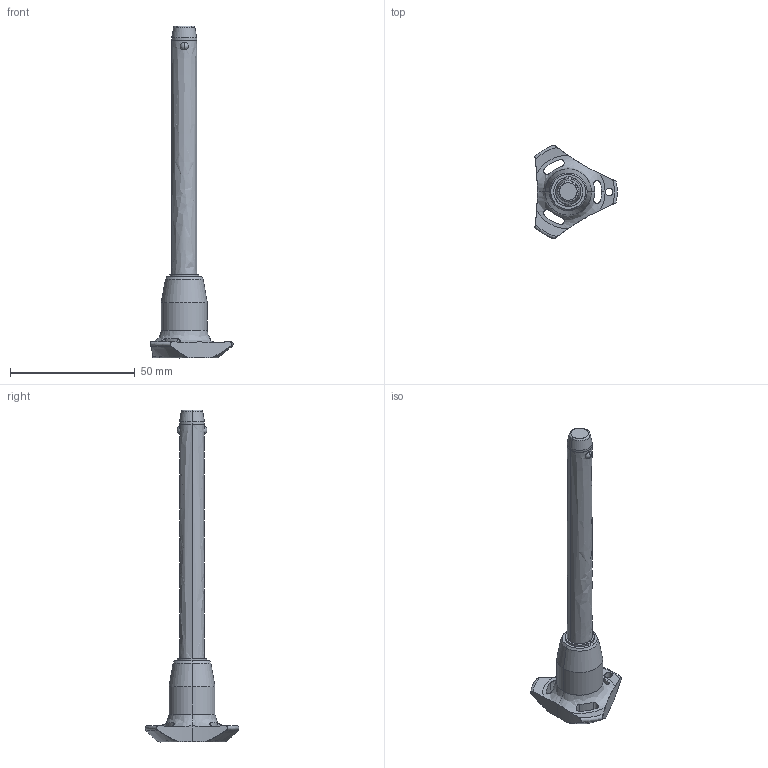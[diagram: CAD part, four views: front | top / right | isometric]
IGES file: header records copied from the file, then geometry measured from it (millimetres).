
Start section: SolidWorks IGES file using analytic representation for surfaces
Global section: file name: C:\Users\ianosborn\Desktop\QR1716_v2\QR1716_v2_20251114_IGES\QR1716.M10-090-T.igs; native system: SolidWorks 2019; preprocessor: SolidWorks 2019; author: IanOsborn; date: 251113.103432; units: millimetre
Bounding box: 33 x 37.51 x 132.9 mm (x, y, z)
Surface area: 6920.9 mm2 (no closed solid volume)
Topology: 0 solids, 0 shells, 68 faces, 1352 edges, 1345 vertices
Faces by surface type: revolution 52, bspline 16
